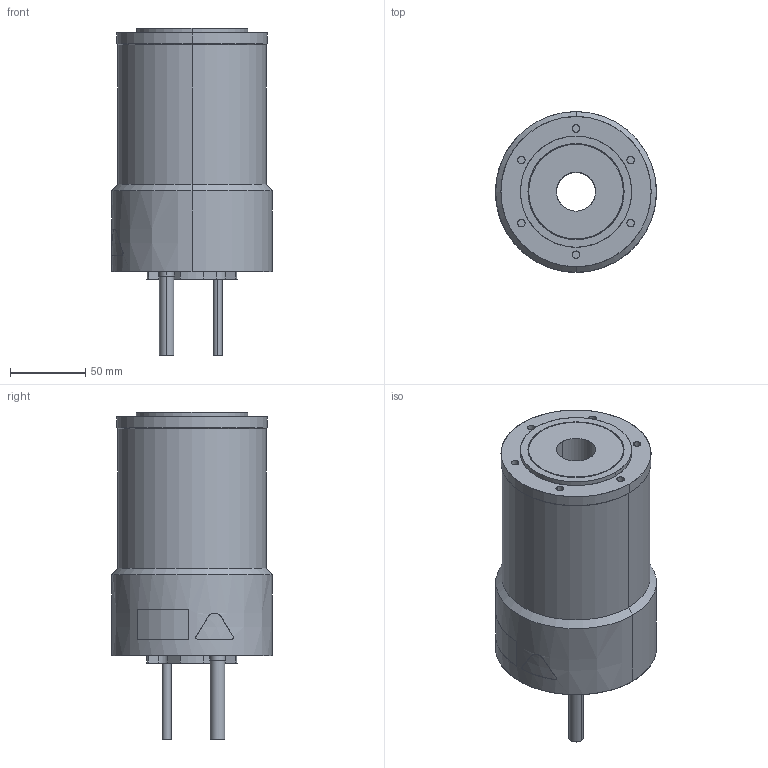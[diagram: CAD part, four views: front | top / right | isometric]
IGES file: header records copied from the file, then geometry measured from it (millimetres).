
Start section: SolidWorks IGES file using analytic representation for surfaces
Bounding box: 107.04 x 107 x 218 mm (x, y, z)
Surface area: 88203.4 mm2 (no closed solid volume)
Topology: 0 solids, 0 shells, 123 faces, 2614 edges, 2614 vertices
Faces by surface type: revolution 75, bspline 48
